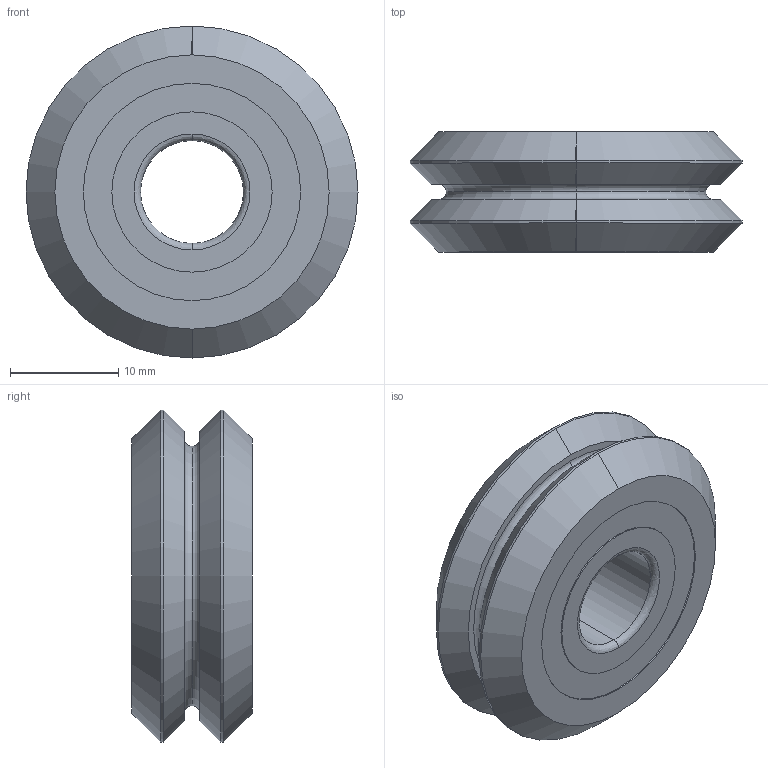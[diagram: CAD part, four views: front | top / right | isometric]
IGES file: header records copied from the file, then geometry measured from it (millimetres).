
Start section: 3D InterOp IGES (v. 2019 1.0.2), Spatial Corp. Copyright (c) 1999-2017.
Global section: file name: W2SS227.igs; native system: Spatial Corp.; preprocessor: 3D InterOp GENERIC/IGES 3.0; author: Noname; organization: Noname; date: 20200930.105808; units: millimetre
Bounding box: 30.73 x 11.13 x 30.73 mm (x, y, z)
Surface area: 2680.8 mm2 (no closed solid volume)
Topology: 0 solids, 0 shells, 38 faces, 152 edges, 152 vertices
Faces by surface type: revolution 30, extrusion 8
